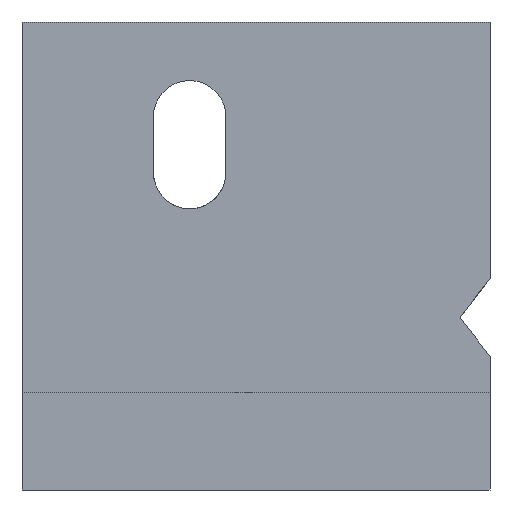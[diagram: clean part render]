
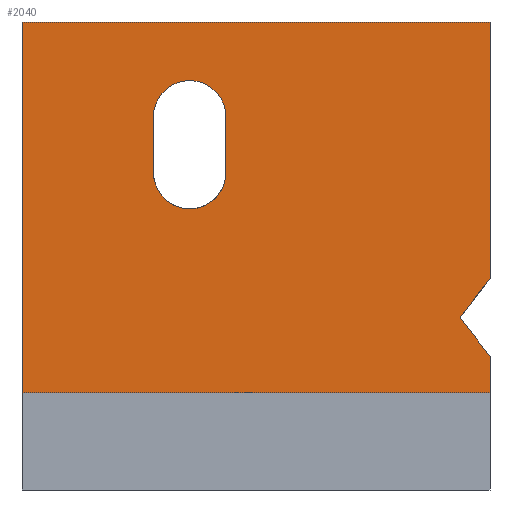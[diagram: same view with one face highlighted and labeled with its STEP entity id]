
A CAD part, front view. The second image highlights one B-rep face of the part: STEP entity #2040.
In plain terms, the highlighted planar face has unit normal (0, -1, 0).
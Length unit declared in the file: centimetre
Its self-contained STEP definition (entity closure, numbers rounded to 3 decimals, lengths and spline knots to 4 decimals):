
#2 = EDGE_LOOP ( 'NONE', ( #392, #789, #470, #1950, #682, #2347, #1071 ) ) ;
#63 = VECTOR ( 'NONE', #2327, 100. ) ;
#82 = VERTEX_POINT ( 'NONE', #2055 ) ;
#130 = VERTEX_POINT ( 'NONE', #891 ) ;
#143 = LINE ( 'NONE', #868, #1733 ) ;
#177 = EDGE_CURVE ( 'NONE', #1567, #564, #143, .T. ) ;
#188 = EDGE_CURVE ( 'NONE', #1456, #617, #1984, .T. ) ;
#195 = CARTESIAN_POINT ( 'NONE',  ( 358.3169, 0., 600.7356 ) ) ;
#207 = CARTESIAN_POINT ( 'NONE',  ( 0., 0., 1000. ) ) ;
#220 = CARTESIAN_POINT ( 'NONE',  ( 0., 0., 1000. ) ) ;
#227 = EDGE_LOOP ( 'NONE', ( #240, #743, #1970, #1976, #2048 ) ) ;
#240 = ORIENTED_EDGE ( 'NONE', *, *, #514, .F. ) ;
#284 = CARTESIAN_POINT ( 'NONE',  ( 1000., 0., 452.0064 ) ) ;
#290 = CARTESIAN_POINT ( 'NONE',  ( 280.8379, 0., 797.3724 ) ) ;
#304 = DIRECTION ( 'NONE',  ( 0., 0., 1. ) ) ;
#322 = DIRECTION ( 'NONE',  ( 0., 0., 1. ) ) ;
#327 = DIRECTION ( 'NONE',  ( 0., 0., -1. ) ) ;
#367 = CARTESIAN_POINT ( 'NONE',  ( 1000., 0., 207.898 ) ) ;
#386 = CARTESIAN_POINT ( 'NONE',  ( 1000., 0., 207.898 ) ) ;
#392 = ORIENTED_EDGE ( 'NONE', *, *, #177, .T. ) ;
#418 = CARTESIAN_POINT ( 'NONE',  ( 1000., 0., 285.4978 ) ) ;
#470 = ORIENTED_EDGE ( 'NONE', *, *, #1823, .F. ) ;
#474 = VECTOR ( 'NONE', #304, 100. ) ;
#485 = VERTEX_POINT ( 'NONE', #290 ) ;
#504 = CARTESIAN_POINT ( 'NONE',  ( 358.3169, 0., 678.2147 ) ) ;
#514 = EDGE_CURVE ( 'NONE', #2106, #2186, #1570, .T. ) ;
#524 = VECTOR ( 'NONE', #1931, 100. ) ;
#564 = VERTEX_POINT ( 'NONE', #2295 ) ;
#617 = VERTEX_POINT ( 'NONE', #1603 ) ;
#654 = CARTESIAN_POINT ( 'NONE',  ( 435.796, 0., 797.3724 ) ) ;
#664 = VECTOR ( 'NONE', #1640, 100. ) ;
#672 = LINE ( 'NONE', #860, #821 ) ;
#682 = ORIENTED_EDGE ( 'NONE', *, *, #2306, .T. ) ;
#703 = DIRECTION ( 'NONE',  ( -0.61, 0., 0.793 ) ) ;
#743 = ORIENTED_EDGE ( 'NONE', *, *, #2163, .F. ) ;
#789 = ORIENTED_EDGE ( 'NONE', *, *, #1799, .T. ) ;
#821 = VECTOR ( 'NONE', #1197, 100. ) ;
#850 = DIRECTION ( 'NONE',  ( 0., 0., 1. ) ) ;
#860 = CARTESIAN_POINT ( 'NONE',  ( 935.9787, 0., 368.7521 ) ) ;
#868 = CARTESIAN_POINT ( 'NONE',  ( 1000., 0., 285.4978 ) ) ;
#870 = DIRECTION ( 'NONE',  ( 0., -1., 0. ) ) ;
#876 = CARTESIAN_POINT ( 'NONE',  ( 358.3169, 0., 797.3724 ) ) ;
#891 = CARTESIAN_POINT ( 'NONE',  ( 1000., 0., 1000. ) ) ;
#939 = AXIS2_PLACEMENT_3D ( 'NONE', #2012, #1705, #1321 ) ;
#968 = FACE_OUTER_BOUND ( 'NONE', #2, .T. ) ;
#971 = DIRECTION ( 'NONE',  ( 0., 0., -1. ) ) ;
#983 = AXIS2_PLACEMENT_3D ( 'NONE', #504, #870, #322 ) ;
#1007 = LINE ( 'NONE', #2105, #524 ) ;
#1049 = LINE ( 'NONE', #1394, #1633 ) ;
#1071 = ORIENTED_EDGE ( 'NONE', *, *, #1348, .F. ) ;
#1142 = EDGE_CURVE ( 'NONE', #485, #82, #1626, .T. ) ;
#1197 = DIRECTION ( 'NONE',  ( 0.61, 0., 0.793 ) ) ;
#1228 = CARTESIAN_POINT ( 'NONE',  ( 358.3169, 0., 678.2147 ) ) ;
#1254 = CARTESIAN_POINT ( 'NONE',  ( 1000., 0., 1000. ) ) ;
#1307 = EDGE_CURVE ( 'NONE', #2186, #485, #1781, .T. ) ;
#1321 = DIRECTION ( 'NONE',  ( 0., 0., 1. ) ) ;
#1348 = EDGE_CURVE ( 'NONE', #1567, #1456, #1049, .T. ) ;
#1387 = DIRECTION ( 'NONE',  ( 0., -1., 0. ) ) ;
#1394 = CARTESIAN_POINT ( 'NONE',  ( 1000., 0., 1000. ) ) ;
#1408 = AXIS2_PLACEMENT_3D ( 'NONE', #876, #1752, #850 ) ;
#1449 = CIRCLE ( 'NONE', #1743, 77.4791 ) ;
#1456 = VERTEX_POINT ( 'NONE', #367 ) ;
#1490 = VERTEX_POINT ( 'NONE', #195 ) ;
#1498 = VERTEX_POINT ( 'NONE', #207 ) ;
#1514 = PLANE ( 'NONE',  #939 ) ;
#1567 = VERTEX_POINT ( 'NONE', #418 ) ;
#1570 = LINE ( 'NONE', #2248, #474 ) ;
#1603 = CARTESIAN_POINT ( 'NONE',  ( 0., 0., 207.898 ) ) ;
#1626 = LINE ( 'NONE', #2350, #63 ) ;
#1633 = VECTOR ( 'NONE', #1920, 100. ) ;
#1640 = DIRECTION ( 'NONE',  ( -1., 0., 0. ) ) ;
#1683 = LINE ( 'NONE', #220, #2188 ) ;
#1705 = DIRECTION ( 'NONE',  ( 0., 1., 0. ) ) ;
#1733 = VECTOR ( 'NONE', #703, 100. ) ;
#1743 = AXIS2_PLACEMENT_3D ( 'NONE', #1228, #1387, #2264 ) ;
#1746 = CARTESIAN_POINT ( 'NONE',  ( 435.796, 0., 678.2147 ) ) ;
#1752 = DIRECTION ( 'NONE',  ( 0., -1., 0. ) ) ;
#1781 = CIRCLE ( 'NONE', #1408, 77.4791 ) ;
#1786 = EDGE_CURVE ( 'NONE', #1498, #130, #1007, .T. ) ;
#1799 = EDGE_CURVE ( 'NONE', #564, #2127, #672, .T. ) ;
#1823 = EDGE_CURVE ( 'NONE', #130, #2127, #2144, .T. ) ;
#1920 = DIRECTION ( 'NONE',  ( 0., 0., -1. ) ) ;
#1931 = DIRECTION ( 'NONE',  ( 1., 0., 0. ) ) ;
#1950 = ORIENTED_EDGE ( 'NONE', *, *, #1786, .F. ) ;
#1966 = CIRCLE ( 'NONE', #983, 77.4791 ) ;
#1970 = ORIENTED_EDGE ( 'NONE', *, *, #2266, .F. ) ;
#1976 = ORIENTED_EDGE ( 'NONE', *, *, #1142, .F. ) ;
#1984 = LINE ( 'NONE', #386, #664 ) ;
#2012 = CARTESIAN_POINT ( 'NONE',  ( 0., 0., 1000. ) ) ;
#2040 = ADVANCED_FACE ( 'NONE', ( #2199, #968 ), #1514, .F. ) ;
#2048 = ORIENTED_EDGE ( 'NONE', *, *, #1307, .F. ) ;
#2055 = CARTESIAN_POINT ( 'NONE',  ( 280.8379, 0., 678.2147 ) ) ;
#2075 = VECTOR ( 'NONE', #327, 100. ) ;
#2105 = CARTESIAN_POINT ( 'NONE',  ( 0., 0., 1000. ) ) ;
#2106 = VERTEX_POINT ( 'NONE', #1746 ) ;
#2127 = VERTEX_POINT ( 'NONE', #284 ) ;
#2144 = LINE ( 'NONE', #1254, #2075 ) ;
#2163 = EDGE_CURVE ( 'NONE', #1490, #2106, #1449, .T. ) ;
#2186 = VERTEX_POINT ( 'NONE', #654 ) ;
#2188 = VECTOR ( 'NONE', #971, 100. ) ;
#2199 = FACE_BOUND ( 'NONE', #227, .T. ) ;
#2248 = CARTESIAN_POINT ( 'NONE',  ( 435.796, 0., 797.3724 ) ) ;
#2264 = DIRECTION ( 'NONE',  ( 0., 0., 1. ) ) ;
#2266 = EDGE_CURVE ( 'NONE', #82, #1490, #1966, .T. ) ;
#2295 = CARTESIAN_POINT ( 'NONE',  ( 935.9787, 0., 368.7521 ) ) ;
#2306 = EDGE_CURVE ( 'NONE', #1498, #617, #1683, .T. ) ;
#2327 = DIRECTION ( 'NONE',  ( 0., 0., -1. ) ) ;
#2347 = ORIENTED_EDGE ( 'NONE', *, *, #188, .F. ) ;
#2350 = CARTESIAN_POINT ( 'NONE',  ( 280.8379, 0., 678.2147 ) ) ;
